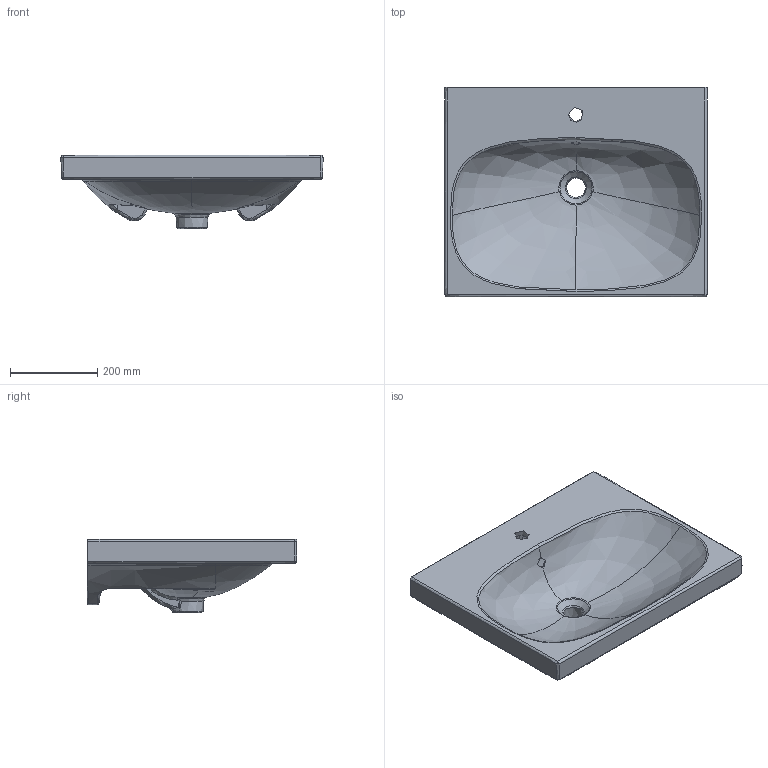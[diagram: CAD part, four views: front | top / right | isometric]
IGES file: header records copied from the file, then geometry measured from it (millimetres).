
Global section: file name: 500620; native system: Autodesk Inventor 2018; preprocessor: unknown; author: JANAN; date: 20200224.082147; units: millimetre
Bounding box: 599.73 x 479.87 x 168 mm (x, y, z)
Volume: 10163084.3 mm3; surface area: 891285.7 mm2
Topology: 1 solids, 1 shells, 230 faces, 552 edges, 322 vertices
Faces by surface type: bspline 230
